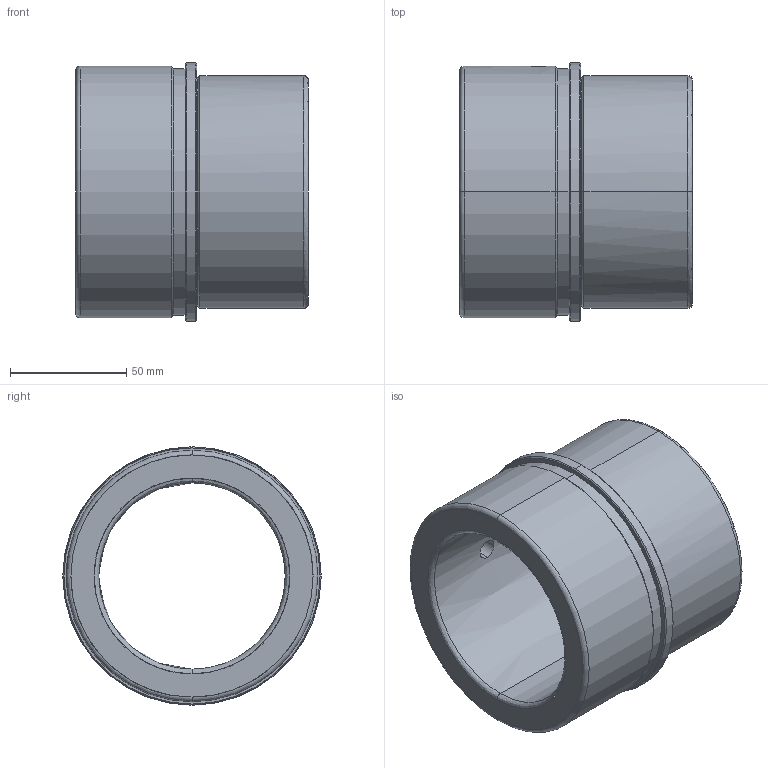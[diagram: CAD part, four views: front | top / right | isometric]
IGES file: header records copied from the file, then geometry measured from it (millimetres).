
Start section: START RECORD GO HERE.
Global section: file name: CF 641 80 x 100.igs; native system: DASSAULT SYSTEMES CATIA V5 R20 - www.3ds.com; preprocessor: CATIA Version 5 Release 20 ; author: Utente; organization: NB04-ASUS; date: 20201226.155026; units: millimetre
Bounding box: 100 x 111 x 111 mm (x, y, z)
Surface area: 67580.2 mm2 (no closed solid volume)
Topology: 0 solids, 0 shells, 37 faces, 250 edges, 250 vertices
Faces by surface type: revolution 32, plane 5
